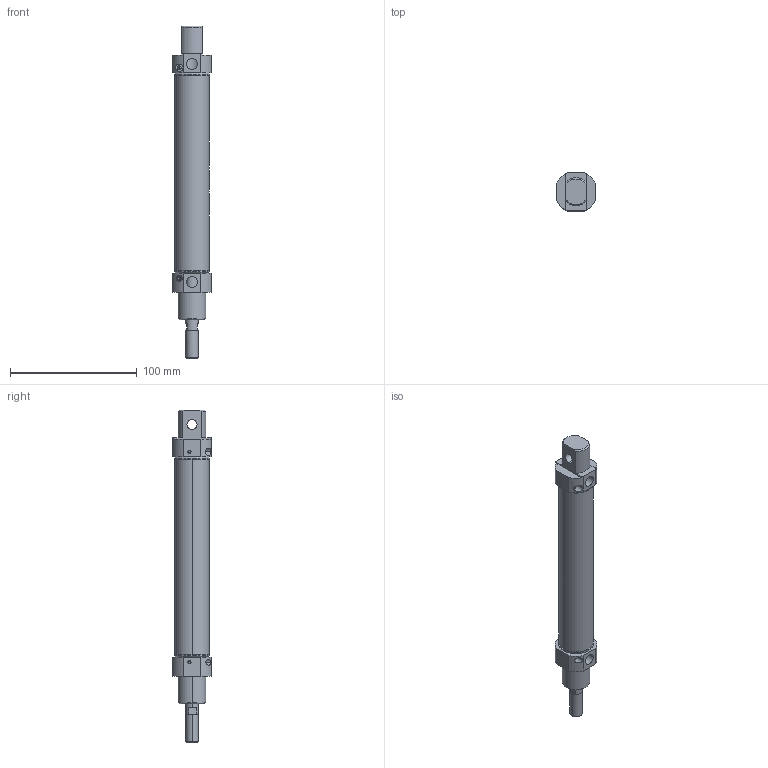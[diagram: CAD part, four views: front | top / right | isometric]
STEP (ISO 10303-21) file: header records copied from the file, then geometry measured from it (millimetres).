
FILE_DESCRIPTION (( 'STEP AP214' ), '1' );
FILE_NAME ('RMAY_25_125_WEB.STEP', '2021-05-06T16:06:44', ( '' ), ( '' ), 'SwSTEP 2.0', 'SolidWorks 2021', '' );
FILE_SCHEMA (( 'AUTOMOTIVE_DESIGN' ));
Length unit declared in the file: millimetre
Products named in the file (9): 1012_PAPYUZUK; socket set screw cone point_am_B18.3.6M - M3 x 0.5 x 2.5 Hex Socket Cone Pt. SS --N; RMAY_25_125_WEB; KASTAS-K52-10X16_2X4_5-6; 25_100_boru; RMAY_25_arkakapak; yastýk_vidasý; RMAY_25_100_mil_WEB; RMAY_25_onkapak
Assembly tree (10 placements, depth 2):
  RMAY_25_125_WEB
    25_100_boru
    RMAY_25_onkapak
    KASTAS-K52-10X16_2X4_5-6
    1012_PAPYUZUK
    RMAY_25_arkakapak
    RMAY_25_100_mil_WEB
    yastýk_vidasý  x2
    socket set screw cone point_am_B18.3.6M - M3 x 0.5 x 2.5 Hex Socket Cone Pt. SS --N  x2
Bounding box: 30 x 30 x 262 mm (x, y, z)
Volume: 55179.5 mm3; surface area: 46462.6 mm2
Topology: 10 solids, 10 shells, 470 faces, 1172 edges, 752 vertices
Faces by surface type: plane 175, cylinder 150, bspline 89, cone 54, torus 2
Entity records: 19815 total; most frequent: CARTESIAN_POINT 7751, ORIENTED_EDGE 2140, DIRECTION 1870, EDGE_CURVE 1070, AXIS2_PLACEMENT_3D 687, VERTEX_POINT 687, VECTOR 496, LINE 496
